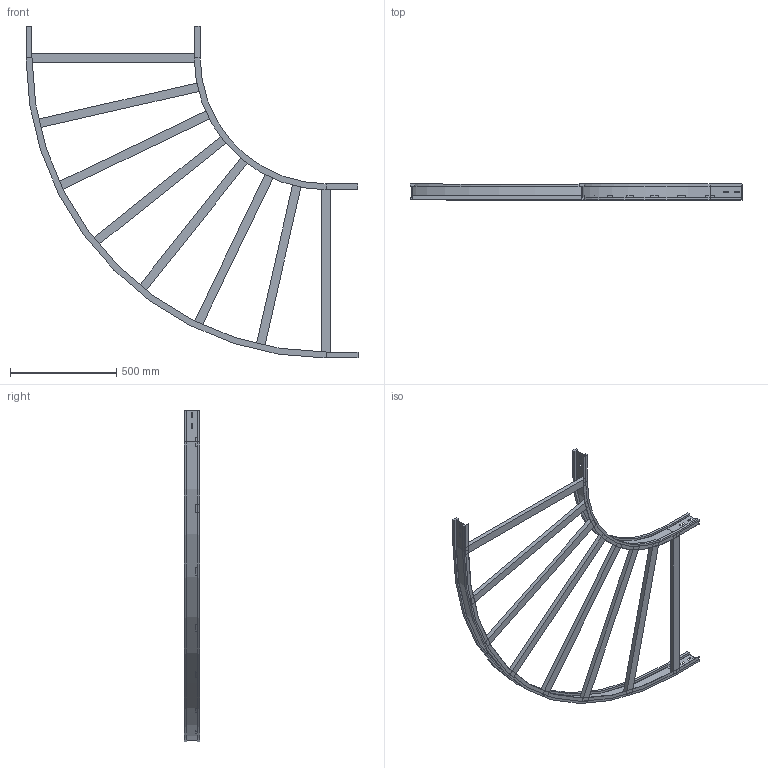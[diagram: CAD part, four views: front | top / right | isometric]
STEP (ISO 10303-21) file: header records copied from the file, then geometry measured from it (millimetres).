
FILE_DESCRIPTION (( 'STEP AP214' ), '1' );
FILE_NAME ('10S6C800.step', '2025-02-21T16:12:07', ( '' ), ( '' ), 'SwSTEP 2.0', 'SolidWorks 2023', '' );
FILE_SCHEMA (( 'AUTOMOTIVE_DESIGN' ));
Length unit declared in the file: millimetre
Products named in the file (4): TRAVERSINO_800; 10S6C800; LONGH.INTERNO 90°_H75_R600; LONGH.ESTERNO 90°_H75_R600+800
Assembly tree (10 placements, depth 2):
  10S6C800
    LONGH.INTERNO 90°_H75_R600
    LONGH.ESTERNO 90°_H75_R600+800
    TRAVERSINO_800  x8
Bounding box: 1559 x 75 x 1559 mm (x, y, z)
Volume: 7005529.8 mm3; surface area: 1707816.4 mm2
Topology: 10 solids, 10 shells, 156 faces, 360 edges, 224 vertices
Faces by surface type: plane 144, cylinder 12
Entity records: 3429 total; most frequent: CARTESIAN_POINT 571, DIRECTION 554, ORIENTED_EDGE 552, EDGE_CURVE 276, LINE 252, VECTOR 252, VERTEX_POINT 168, AXIS2_PLACEMENT_3D 151
